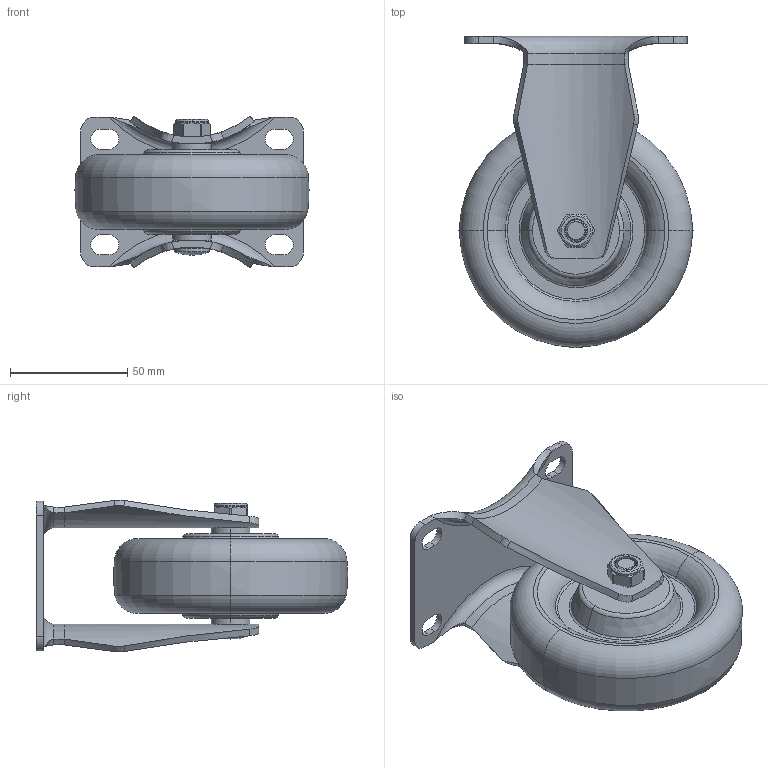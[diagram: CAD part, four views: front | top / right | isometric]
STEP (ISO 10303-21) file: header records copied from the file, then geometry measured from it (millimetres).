
FILE_DESCRIPTION((''),'2;1');
FILE_NAME('50104-504-86_ASM','2020-01-01T',('L'),(''),'PRO/ENGINEER BY PARAMETRIC TECHNOLOGY CORPORATION, 2010280','PRO/ENGINEER BY PARAMETRIC TECHNOLOGY CORPORATION, 2010280','');
FILE_SCHEMA(('CONFIG_CONTROL_DESIGN'));
Length unit declared in the file: millimetre
Products named in the file (5): 50104; 504-986; 570-33; 570-34; 50104-504-86_ASM
Assembly tree (4 placements, depth 2):
  50104-504-86_ASM
    50104
    504-986
    570-33
    570-34
Bounding box: 99.96 x 132.98 x 64.88 mm (x, y, z)
Volume: 256235.3 mm3; surface area: 57344.3 mm2
Topology: 5 solids, 5 shells, 197 faces, 480 edges, 299 vertices
Faces by surface type: cylinder 63, plane 47, bspline 37, torus 26, cone 22, sphere 2
Entity records: 10265 total; most frequent: CARTESIAN_POINT 5817, ORIENTED_EDGE 956, DIRECTION 816, EDGE_CURVE 478, AXIS2_PLACEMENT_3D 332, VERTEX_POINT 299, EDGE_LOOP 219, FACE_OUTER_BOUND 197
